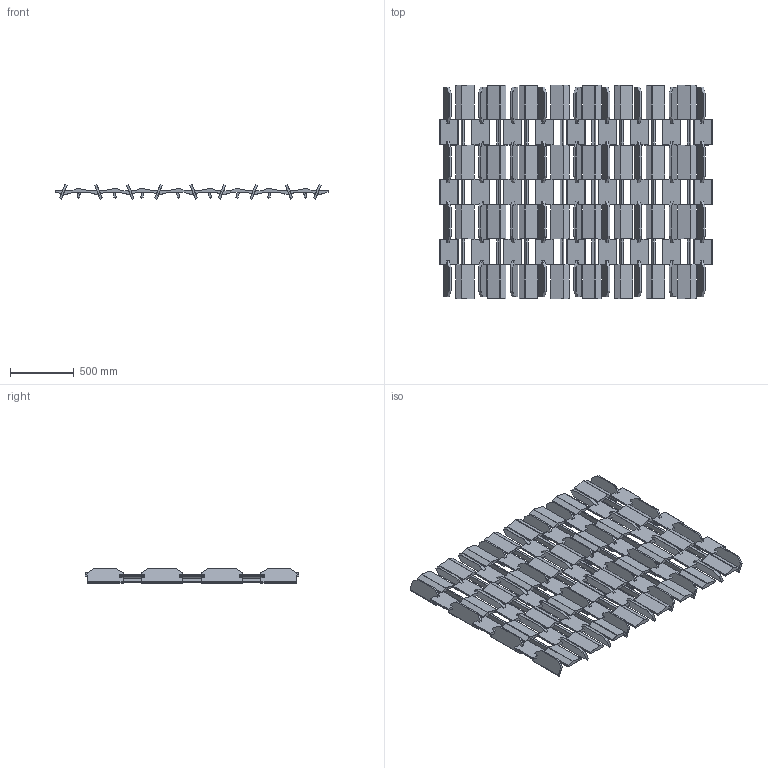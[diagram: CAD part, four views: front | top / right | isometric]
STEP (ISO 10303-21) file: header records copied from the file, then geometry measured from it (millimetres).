
FILE_DESCRIPTION (( 'STEP AP203' ), '1' );
FILE_NAME ('WEDGED PARAVENTO 01.STEP', '2024-08-09T07:45:45', ( '' ), ( '' ), 'SwSTEP 2.0', 'SolidWorks 2024', '' );
FILE_SCHEMA (( 'CONFIG_CONTROL_DESIGN' ));
Products named in the file (2): WEDGED PARAVENTO 01; Group1^WEDGED PARAVENTO 01
Assembly tree (1 placements, depth 2):
  WEDGED PARAVENTO 01
    Group1^WEDGED PARAVENTO 01
Bounding box: 2145 x 1679 x 113.38 mm (x, y, z)
Volume: 74295862.1 mm3; surface area: 8635326.3 mm2
Topology: 17 solids, 17 shells, 3902 faces, 9261 edges, 5393 vertices
Faces by surface type: plane 2899, cone 649, cylinder 354
Entity records: 108422 total; most frequent: CARTESIAN_POINT 18560, ORIENTED_EDGE 18522, DIRECTION 18430, EDGE_CURVE 9261, LINE 7904, VECTOR 7904, VERTEX_POINT 5393, AXIS2_PLACEMENT_3D 5263
